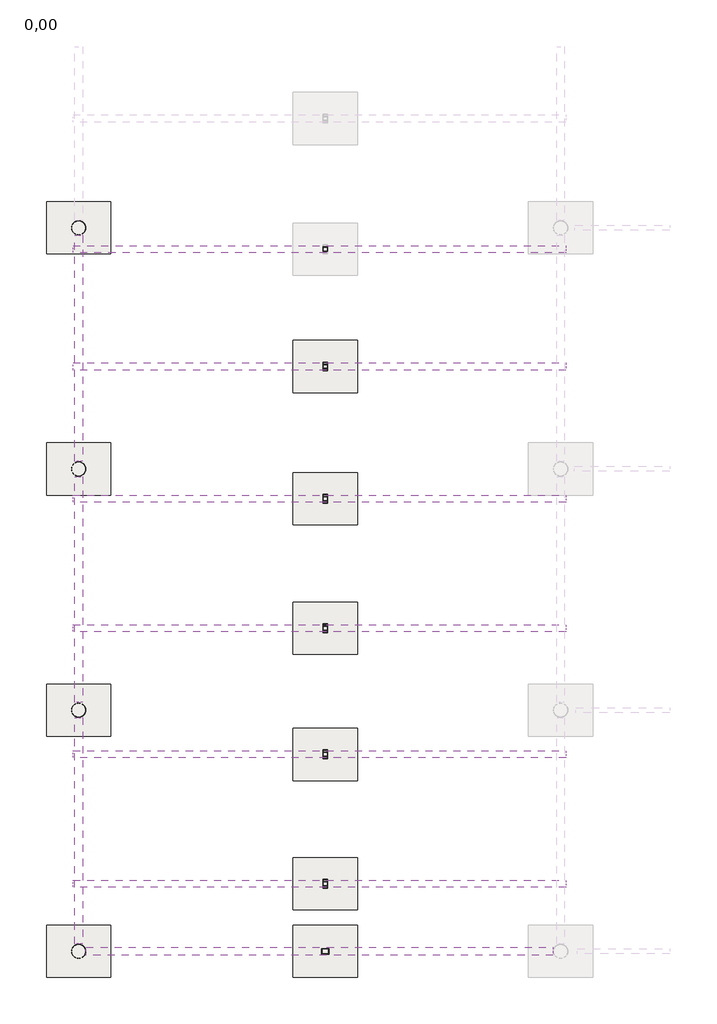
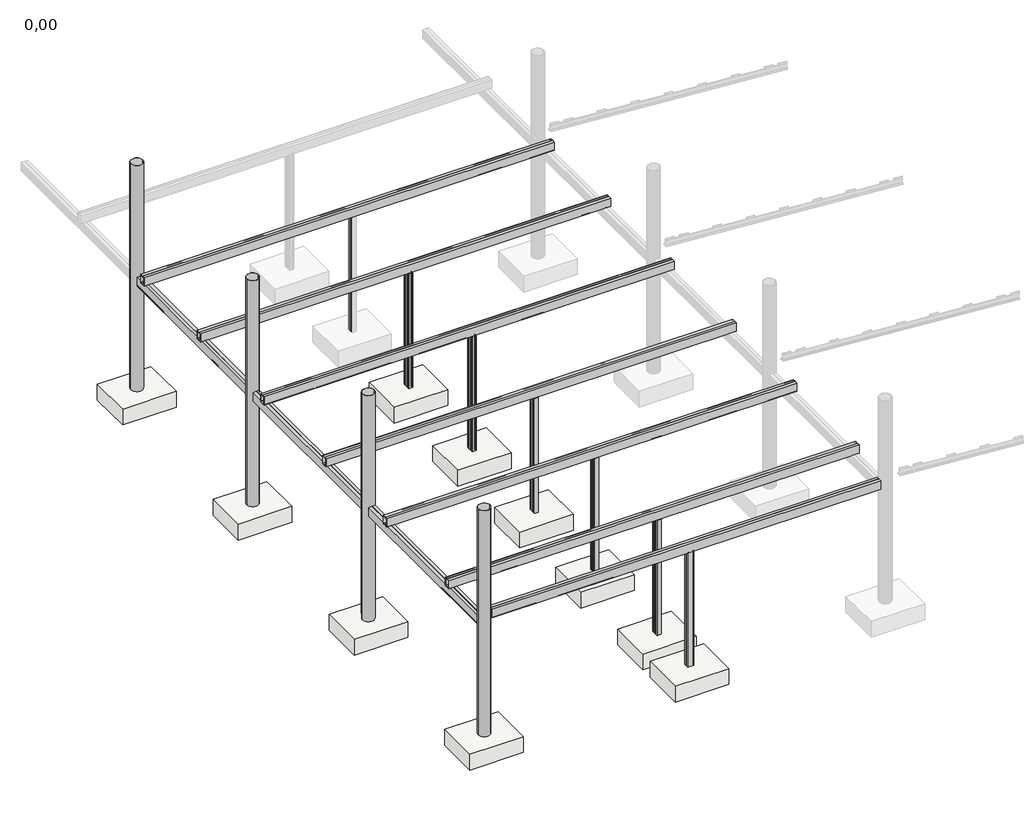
# One storey, part 1 of 2: 21 columns, 10 beams, 10 slabs.
"""IFC4 building model written with IfcOpenShell, lengths in millimetres."""

import ifcopenshell
import ifcopenshell.guid

model = None  # the IFC model being written
_history = None  # IfcOwnerHistory: only IFC2X3 demands one
_inside = {}  # id of a spatial element -> (the spatial element, [elements in it])
_under = {}  # id of a project, library or spatial element -> (it, [spatial elements below it])
_declared = {}  # id of a project -> (the project, [libraries it declares])
_typed = {}  # id of a type object -> (the type object, [elements of that type])
_made_of = {}  # id of a material, layer set ... -> (it, [elements and type objects made of it])


def new_model(schema):
    """Start an empty IFC model of exactly this schema.

    Asked for "IFC4X3", IfcOpenShell would pick the latest addendum, in which some entities
    have other attributes; the version numbers below select the first issue.
    IFC2X3 requires an IfcOwnerHistory on every rooted entity: one is made here for all.
    """
    global model, _history
    if schema == "IFC4X3":
        model = ifcopenshell.file(schema_version=(4, 3, 0, 0))
    else:
        model = ifcopenshell.file(schema=schema)
    _inside.clear()
    _under.clear()
    _declared.clear()
    _typed.clear()
    _made_of.clear()
    _history = None
    if model.schema == "IFC2X3":
        org = make("IfcOrganization", Name="unknown")
        user = make(
            "IfcPersonAndOrganization",
            ThePerson=make("IfcPerson", FamilyName="unknown"),
            TheOrganization=org,
        )
        app = make(
            "IfcApplication",
            ApplicationDeveloper=org,
            Version="unknown",
            ApplicationFullName="unknown",
            ApplicationIdentifier="unknown",
        )
        _history = make(
            "IfcOwnerHistory",
            OwningUser=user,
            OwningApplication=app,
            ChangeAction="ADDED",
            CreationDate=0,
        )
    return model


def make(cls, **values):
    """One entity of the class cls with the attributes given. An attribute that is None is left unset."""
    return model.create_entity(
        cls, **{name: value for name, value in values.items() if value is not None}
    )


def rooted(cls, **values):
    """An entity with a GlobalId (a new one), such as an element, a storey or a relation."""
    return make(cls, GlobalId=ifcopenshell.guid.new(), OwnerHistory=_history, **values)


def si_unit(unit_type, name, prefix=None):
    """IfcSIUnit, for example si_unit("LENGTHUNIT", "METRE", prefix="MILLI")."""
    return make("IfcSIUnit", UnitType=unit_type, Prefix=prefix, Name=name)


def assignment(units):
    """IfcUnitAssignment: the units of a project."""
    return None if units is None else make("IfcUnitAssignment", Units=units)


def point(xyz):
    """IfcCartesianPoint."""
    return None if xyz is None else make("IfcCartesianPoint", Coordinates=xyz)


def direction(xyz):
    """IfcDirection."""
    return None if xyz is None else make("IfcDirection", DirectionRatios=xyz)


def frame(location, z_axis=None, x_axis=None):
    """IfcAxis2Placement3D, a coordinate frame: its origin and axes. An axis left out is left unset."""
    return make(
        "IfcAxis2Placement3D",
        Location=point(location),
        Axis=direction(z_axis),
        RefDirection=direction(x_axis),
    )


def frame_2d(location, x_axis=None):
    """IfcAxis2Placement2D, a coordinate frame in the plane: its origin and x axis."""
    return make(
        "IfcAxis2Placement2D", Location=point(location), RefDirection=direction(x_axis)
    )


def origin():
    """The frame at (0, 0, 0) with its axes left unset."""
    return frame((0.0, 0.0, 0.0))


def origin_with_axes():
    """The frame at (0, 0, 0) with the z axis (0, 0, 1) and the x axis (1, 0, 0) written out."""
    return frame((0.0, 0.0, 0.0), z_axis=(0.0, 0.0, 1.0), x_axis=(1.0, 0.0, 0.0))


def origin_2d():
    """The frame at (0, 0) in the plane with its x axis left unset."""
    return frame_2d((0.0, 0.0))


def place(relative_to, where):
    """IfcLocalPlacement: puts the frame where relative to a parent placement (None: the world)."""
    return make(
        "IfcLocalPlacement", PlacementRelTo=relative_to, RelativePlacement=where
    )


def context(
    kind, dimensions, precision=None, world=None, true_north=None, identifier=None
):
    """IfcGeometricRepresentationContext, for example the 3D "Model" context."""
    return make(
        "IfcGeometricRepresentationContext",
        ContextIdentifier=identifier,
        ContextType=kind,
        CoordinateSpaceDimension=dimensions,
        Precision=precision,
        WorldCoordinateSystem=world,
        TrueNorth=true_north,
    )


def project(units=None, contexts=None):
    """IfcProject with its units and contexts."""
    return rooted(
        "IfcProject",
        Name="project",
        RepresentationContexts=contexts,
        UnitsInContext=assignment(units),
    )


def spatial(cls, under=None, at=None, **own):
    """A site, building, storey or space (cls), placed at a placement, below another one or the project."""
    s = rooted(cls, ObjectPlacement=at, **own)
    if under is not None:
        _under.setdefault(under.id(), (under, []))[1].append(s)
    return s


def polyline(points):
    """IfcPolyline through the points."""
    return make("IfcPolyline", Points=[point(p) for p in points])


def circle_curve(where, radius):
    """IfcCircle in the frame where."""
    return make("IfcCircle", Position=where, Radius=radius)


def trimmed(basis, trim1, trim2, sense, master):
    """IfcTrimmedCurve: the piece of a basis curve between two trims."""
    return make(
        "IfcTrimmedCurve",
        BasisCurve=basis,
        Trim1=trim1,
        Trim2=trim2,
        SenseAgreement=sense,
        MasterRepresentation=master,
    )


def segment(curve, same_sense, transition):
    """IfcCompositeCurveSegment."""
    return make(
        "IfcCompositeCurveSegment",
        Transition=transition,
        SameSense=same_sense,
        ParentCurve=curve,
    )


def composite_curve(segments, self_intersect=None):
    """IfcCompositeCurve: segments joined end to end."""
    return make("IfcCompositeCurve", Segments=segments, SelfIntersect=self_intersect)


def outline(outer, holes=None, kind="AREA"):
    """IfcArbitraryClosedProfileDef: a profile drawn as a closed curve; with holes, ...WithVoids."""
    if holes is None:
        return make("IfcArbitraryClosedProfileDef", ProfileType=kind, OuterCurve=outer)
    return make(
        "IfcArbitraryProfileDefWithVoids",
        ProfileType=kind,
        OuterCurve=outer,
        InnerCurves=holes,
    )


def extrude(swept, where, along, depth):
    """IfcExtrudedAreaSolid: the profile swept, set in the frame where, extruded along a direction by depth."""
    return make(
        "IfcExtrudedAreaSolid",
        SweptArea=swept,
        Position=where,
        ExtrudedDirection=direction(along),
        Depth=depth,
    )


def shape(context_of_items, identifier, shape_type, items):
    """IfcShapeRepresentation: the items that make up one representation, for example the "Body"."""
    return make(
        "IfcShapeRepresentation",
        ContextOfItems=context_of_items,
        RepresentationIdentifier=identifier,
        RepresentationType=shape_type,
        Items=items,
    )


def source(mapping_origin, context_of_items, identifier, shape_type, items):
    """IfcRepresentationMap: a shape defined once, which mapped items show again and again."""
    return make(
        "IfcRepresentationMap",
        MappingOrigin=mapping_origin,
        MappedRepresentation=shape(context_of_items, identifier, shape_type, items),
    )


def transform(
    local_origin,
    x_axis=None,
    y_axis=None,
    z_axis=None,
    scale=None,
    scale2=None,
    scale3=None,
    uniform=True,
):
    """IfcCartesianTransformationOperator3D, or its non-uniform kind. x_axis, y_axis, z_axis: its Axis1, 2, 3."""
    if uniform:
        return make(
            "IfcCartesianTransformationOperator3D",
            Axis1=direction(x_axis),
            Axis2=direction(y_axis),
            LocalOrigin=point(local_origin),
            Scale=scale,
            Axis3=direction(z_axis),
        )
    return make(
        "IfcCartesianTransformationOperator3DnonUniform",
        Axis1=direction(x_axis),
        Axis2=direction(y_axis),
        LocalOrigin=point(local_origin),
        Scale=scale,
        Axis3=direction(z_axis),
        Scale2=scale2,
        Scale3=scale3,
    )


def mapped(mapping_source, mapping_target):
    """IfcMappedItem: shows the shape of a source again, moved by a transform."""
    return make(
        "IfcMappedItem", MappingSource=mapping_source, MappingTarget=mapping_target
    )


def made_of(thing, what):
    """Note that an element or type object is made of a material, layer set ...; save() writes the relation."""
    if what is not None:
        _made_of.setdefault(what.id(), (what, []))[1].append(thing)
    return thing


def element(
    cls,
    number,
    at=None,
    inside=None,
    cuts=None,
    type_object=None,
    material=None,
    context=None,
    identifier="Body",
    shape_type=None,
    held_by="IfcProductDefinitionShape",
    body=None,
    shapes=None,
    **own,
):
    """One element of the class cls, such as IfcWall. Its Tag is "e" and its number.

    at: its placement. inside: the storey or other place that contains it. cuts: it is an
    opening in that element (IfcRelVoidsElement). A single representation is given by context,
    identifier, shape_type and body (its items); several are given by shapes. held_by: the class
    of the entity that holds the representations. save() writes the other relations.
    """
    e = rooted(cls, Tag="e%d" % number, ObjectPlacement=at, **own)
    if body is not None:
        shapes = [shape(context, identifier, shape_type, body)]
    if shapes is not None:
        e.Representation = make(held_by, Representations=shapes)
    if inside is not None:
        _inside.setdefault(inside.id(), (inside, []))[1].append(e)
    if cuts is not None:
        rooted(
            "IfcRelVoidsElement", RelatingBuildingElement=cuts, RelatedOpeningElement=e
        )
    if type_object is not None:
        _typed.setdefault(type_object.id(), (type_object, []))[1].append(e)
    return made_of(e, material)


def aggregate(whole, parts):
    """IfcRelAggregates: a whole, such as a stair, and the parts it consists of."""
    return rooted("IfcRelAggregates", RelatingObject=whole, RelatedObjects=parts)


def save(model, path):
    """Write the relations noted so far, then the file.

    IfcRelAggregates (storeys below a building ...), IfcRelContainedInSpatialStructure (elements
    in a storey), IfcRelDefinesByType, IfcRelAssociatesMaterial and IfcRelDeclares: one each for
    every whole, place, type object, material and project.
    """
    for whole, parts in _under.values():
        aggregate(whole, parts)
    for where, things in _inside.values():
        rooted(
            "IfcRelContainedInSpatialStructure",
            RelatedElements=things,
            RelatingStructure=where,
        )
    for kind, things in _typed.values():
        rooted("IfcRelDefinesByType", RelatedObjects=things, RelatingType=kind)
    for what, things in _made_of.values():
        rooted("IfcRelAssociatesMaterial", RelatedObjects=things, RelatingMaterial=what)
    for by, libraries in _declared.values():
        rooted("IfcRelDeclares", RelatingContext=by, RelatedDefinitions=libraries)
    model.write(path)


def beam_2c_260_021a14dd(model_context):
    return source(origin(), model_context, "Body", "SweptSolid", [
        extrude(outline(composite_curve([segment(polyline([(0.0, -116.0), (75.5, -116.0)]), True, "CONTINUOUS"), segment(trimmed(circle_curve(frame_2d((75.5, -111.5)), 4.5), [point((75.5, -116.0))], [point((80.0, -111.5))], True, "CARTESIAN"), True, "CONTINUOUS"), segment(polyline([(80.0, -111.5), (80.0, 113.0)]), True, "CONTINUOUS"), segment(trimmed(circle_curve(frame_2d((75.5, 113.0)), 4.5), [point((80.0, 113.0))], [point((75.5, 117.5))], True, "CARTESIAN"), True, "CONTINUOUS"), segment(polyline([(75.5, 117.5), (0.0, 117.5), (0.0, 130.0), (90.0, 130.0), (90.0, -130.0), (0.0, -130.0), (0.0, -116.0)]), True, "CONTINUOUS")], self_intersect=False)), frame((-6136.1, 0.0, 0.0), z_axis=(1.0, 0.0, 0.0), x_axis=(0.0, 1.0, 0.0)), (0.0, 0.0, 1.0), 12272.2),
        extrude(outline(composite_curve([segment(polyline([(0.0, -116.0), (0.0, -130.0), (-90.0, -130.0), (-90.0, 130.0), (0.0, 130.0), (0.0, 117.5), (-75.5, 117.5)]), True, "CONTINUOUS"), segment(trimmed(circle_curve(frame_2d((-75.5, 113.0)), 4.5), [point((-75.5, 117.5))], [point((-80.0, 113.0))], True, "CARTESIAN"), True, "CONTINUOUS"), segment(polyline([(-80.0, 113.0), (-80.0, -111.5)]), True, "CONTINUOUS"), segment(trimmed(circle_curve(frame_2d((-75.5, -111.5)), 4.5), [point((-80.0, -111.5))], [point((-75.5, -116.0))], True, "CARTESIAN"), True, "CONTINUOUS"), segment(polyline([(-75.5, -116.0), (0.0, -116.0)]), True, "CONTINUOUS")], self_intersect=False)), frame((-6136.1, 0.0, 0.0), z_axis=(1.0, 0.0, 0.0), x_axis=(0.0, 1.0, 0.0)), (0.0, 0.0, 1.0), 12272.2),
    ])


def beam_2c_270e_83d6d2ef(model_context):
    return source(origin(), model_context, "Body", "SweptSolid", [
        extrude(outline(composite_curve([segment(polyline([(-95.0, 135.0), (0.0, 135.0)]), True, "CONTINUOUS"), segment(trimmed(circle_curve(frame_2d((-10.5, 135.0)), 10.5), [point((0.0, 135.0))], [point((-10.5, 124.5))], False, "CARTESIAN"), True, "CONTINUOUS"), segment(polyline([(-10.5, 124.5), (-89.0, 112.0668214), (-89.0, -112.0668214), (-10.5, -124.5)]), True, "CONTINUOUS"), segment(trimmed(circle_curve(frame_2d((-10.5, -135.0)), 10.5), [point((-10.5, -124.5))], [point((0.0, -135.0))], False, "CARTESIAN"), True, "CONTINUOUS"), segment(polyline([(0.0, -135.0), (-95.0, -135.0), (-95.0, 135.0)]), True, "CONTINUOUS")], self_intersect=False)), frame((-2809.5, 0.0, 0.0), z_axis=(1.0, 0.0, 0.0), x_axis=(0.0, 1.0, 0.0)), (0.0, 0.0, 1.0), 5619.0),
        extrude(outline(composite_curve([segment(polyline([(95.0, 135.0), (95.0, -135.0), (0.0, -135.0)]), True, "CONTINUOUS"), segment(trimmed(circle_curve(frame_2d((10.5, -135.0)), 10.5), [point((0.0, -135.0))], [point((10.5, -124.5))], False, "CARTESIAN"), True, "CONTINUOUS"), segment(polyline([(10.5, -124.5), (89.0, -112.0668214), (89.0, 112.0668214), (10.5, 124.5)]), True, "CONTINUOUS"), segment(trimmed(circle_curve(frame_2d((10.5, 135.0)), 10.5), [point((10.5, 124.5))], [point((0.0, 135.0))], False, "CARTESIAN"), True, "CONTINUOUS"), segment(polyline([(0.0, 135.0), (95.0, 135.0)]), True, "CONTINUOUS")], self_intersect=False)), frame((-2809.5, 0.0, 0.0), z_axis=(1.0, 0.0, 0.0), x_axis=(0.0, 1.0, 0.0)), (0.0, 0.0, 1.0), 5619.0),
    ])


def beam_2c_270e_b8db1d55(model_context):
    return source(origin(), model_context, "Body", "SweptSolid", [
        extrude(outline(composite_curve([segment(polyline([(-95.0, 135.0), (0.0, 135.0)]), True, "CONTINUOUS"), segment(trimmed(circle_curve(frame_2d((-10.5, 135.0)), 10.5), [point((0.0, 135.0))], [point((-10.5, 124.5))], False, "CARTESIAN"), True, "CONTINUOUS"), segment(polyline([(-10.5, 124.5), (-89.0, 112.0668214), (-89.0, -112.0668214), (-10.5, -124.5)]), True, "CONTINUOUS"), segment(trimmed(circle_curve(frame_2d((-10.5, -135.0)), 10.5), [point((-10.5, -124.5))], [point((0.0, -135.0))], False, "CARTESIAN"), True, "CONTINUOUS"), segment(polyline([(0.0, -135.0), (-95.0, -135.0), (-95.0, 135.0)]), True, "CONTINUOUS")], self_intersect=False)), frame((-5809.5, 0.0, 0.0), z_axis=(1.0, 0.0, 0.0), x_axis=(0.0, 1.0, 0.0)), (0.0, 0.0, 1.0), 11619.0),
        extrude(outline(composite_curve([segment(polyline([(95.0, 135.0), (95.0, -135.0), (0.0, -135.0)]), True, "CONTINUOUS"), segment(trimmed(circle_curve(frame_2d((10.5, -135.0)), 10.5), [point((0.0, -135.0))], [point((10.5, -124.5))], False, "CARTESIAN"), True, "CONTINUOUS"), segment(polyline([(10.5, -124.5), (89.0, -112.0668214), (89.0, 112.0668214), (10.5, 124.5)]), True, "CONTINUOUS"), segment(trimmed(circle_curve(frame_2d((10.5, 135.0)), 10.5), [point((10.5, 124.5))], [point((0.0, 135.0))], False, "CARTESIAN"), True, "CONTINUOUS"), segment(polyline([(0.0, 135.0), (95.0, 135.0)]), True, "CONTINUOUS")], self_intersect=False)), frame((-5809.5, 0.0, 0.0), z_axis=(1.0, 0.0, 0.0), x_axis=(0.0, 1.0, 0.0)), (0.0, 0.0, 1.0), 11619.0),
    ])


def r355_6x10_30b81005(model_context):
    return source(origin(), model_context, "Body", "SweptSolid", [
        extrude(outline(composite_curve([segment(trimmed(circle_curve(origin_2d(), 177.8), [point((-177.8, 0.0))], [point((177.8, 0.0))], False, "CARTESIAN"), True, "CONTINUOUS"), segment(trimmed(circle_curve(origin_2d(), 177.8), [point((177.8, 0.0))], [point((-177.8, 0.0))], False, "CARTESIAN"), True, "CONTINUOUS")], self_intersect=False), holes=[composite_curve([segment(trimmed(circle_curve(origin_2d(), 167.8), [point((-167.8, 0.0))], [point((167.8, 0.0))], True, "CARTESIAN"), True, "CONTINUOUS"), segment(trimmed(circle_curve(origin_2d(), 167.8), [point((167.8, 0.0))], [point((-167.8, 0.0))], True, "CARTESIAN"), True, "CONTINUOUS")], self_intersect=False)]), origin_with_axes(), (0.0, 0.0, 1.0), 7150.0),
    ])


def slab_1600x1300x500_7dd4b297(model_context):
    return source(origin(), model_context, "Body", "SweptSolid", [
        extrude(outline(polyline([(650.0, 800.0), (650.0, -800.0), (-650.0, -800.0), (-650.0, 800.0), (650.0, 800.0)])), frame((0.0, 0.0, -500.0), z_axis=(0.0, 0.0, 1.0), x_axis=(1.0, 0.0, 0.0)), (0.0, 0.0, 1.0), 500.0),
    ])


model = new_model("IFC4")

# Units and contexts
model_context = context("Model", 3, world=origin())
ifc_project = project(units=[si_unit("LENGTHUNIT", "METRE", prefix="MILLI")], contexts=[model_context])

# Site, building, storey
site = spatial("IfcSite", under=ifc_project)
building = spatial("IfcBuilding", under=site)
storey = spatial("IfcBuildingStorey", under=building, Name="0,00", Elevation=0.0)

# Beams
placement = place(None, origin())
beam_2c_260_shape = beam_2c_260_021a14dd(model_context)
element("IfcBeam", 1, ObjectType="RPLN C - Ceowniki normalne_beamx2 : 2C 260", at=placement, inside=storey, context=model_context, shape_type="MappedRepresentation", body=[
    mapped(beam_2c_260_shape, transform((-2097.0111104, -35232.4816585, 3770.0), x_axis=(1.0, 0.0, 0.0), y_axis=(0.0, 1.0, 0.0), z_axis=(0.0, 0.0, 1.0))),
])
element("IfcBeam", 2, ObjectType="RPLN C - Ceowniki normalne_beamx2 : 2C 260", at=placement, inside=storey, context=model_context, shape_type="MappedRepresentation", body=[
    mapped(beam_2c_260_shape, transform((-2097.0111104, -32012.4816585, 3770.0), x_axis=(1.0, 0.0, 0.0), y_axis=(0.0, 1.0, 0.0), z_axis=(0.0, 0.0, 1.0))),
])
element("IfcBeam", 3, ObjectType="RPLN C - Ceowniki normalne_beamx2 : 2C 260", at=placement, inside=storey, context=model_context, shape_type="MappedRepresentation", body=[
    mapped(beam_2c_260_shape, transform((-2097.0111104, -28872.4816585, 3770.0), x_axis=(1.0, 0.0, 0.0), y_axis=(0.0, 1.0, 0.0), z_axis=(0.0, 0.0, 1.0))),
])
element("IfcBeam", 4, ObjectType="RPLN C - Ceowniki normalne_beamx2 : 2C 260", at=placement, inside=storey, context=model_context, shape_type="MappedRepresentation", body=[
    mapped(beam_2c_260_shape, transform((-2097.0111104, -25652.4816585, 3770.0), x_axis=(1.0, 0.0, 0.0), y_axis=(0.0, 1.0, 0.0), z_axis=(0.0, 0.0, 1.0))),
])
element("IfcBeam", 5, ObjectType="RPLN C - Ceowniki normalne_beamx2 : 2C 260", at=placement, inside=storey, context=model_context, shape_type="MappedRepresentation", body=[
    mapped(beam_2c_260_shape, transform((-2097.0111104, -22362.4816585, 3770.0), x_axis=(1.0, 0.0, 0.0), y_axis=(0.0, 1.0, 0.0), z_axis=(0.0, 0.0, 1.0))),
])
element("IfcBeam", 6, ObjectType="RPLN C - Ceowniki normalne_beamx2 : 2C 260", at=placement, inside=storey, context=model_context, shape_type="MappedRepresentation", body=[
    mapped(beam_2c_260_shape, transform((-2097.0111104, -19442.4816585, 3770.0), x_axis=(1.0, 0.0, 0.0), y_axis=(0.0, 1.0, 0.0), z_axis=(0.0, 0.0, 1.0))),
])
beam_2c_270e_shape = beam_2c_270e_83d6d2ef(model_context)
element("IfcBeam", 7, ObjectType="RPLN C - Ceowniki ekonomiczne_beamx2 : 2C 270E", at=placement, inside=storey, context=model_context, shape_type="MappedRepresentation", body=[
    mapped(beam_2c_270e_shape, transform((-8097.0111104, -33912.4816585, 3505.0), x_axis=(0.0, 1.0, 0.0), y_axis=(-1.0, 0.0, 0.0), z_axis=(0.0, 0.0, 1.0))),
])
element("IfcBeam", 8, ObjectType="RPLN C - Ceowniki ekonomiczne_beamx2 : 2C 270E", at=placement, inside=storey, context=model_context, shape_type="MappedRepresentation", body=[
    mapped(beam_2c_270e_shape, transform((-8097.0111104, -27912.4816585, 3505.0), x_axis=(0.0, 1.0, 0.0), y_axis=(-1.0, 0.0, 0.0), z_axis=(0.0, 0.0, 1.0))),
])
element("IfcBeam", 9, ObjectType="RPLN C - Ceowniki ekonomiczne_beamx2 : 2C 270E", at=placement, inside=storey, context=model_context, shape_type="MappedRepresentation", body=[
    mapped(beam_2c_270e_shape, transform((-8097.0111104, -21912.4816585, 3505.0), x_axis=(0.0, 1.0, 0.0), y_axis=(-1.0, 0.0, 0.0), z_axis=(0.0, 0.0, 1.0))),
])
beam_2c_270e_2_shape = beam_2c_270e_b8db1d55(model_context)
element("IfcBeam", 10, ObjectType="RPLN C - Ceowniki ekonomiczne_beamx2 : 2C 270E", at=placement, inside=storey, context=model_context, shape_type="MappedRepresentation", body=[
    mapped(beam_2c_270e_2_shape, transform((-2097.0111104, -36912.4816585, 3765.0), x_axis=(-1.0, 0.0, 0.0), y_axis=(0.0, -1.0, 0.0), z_axis=(0.0, 0.0, 1.0))),
])

# Columns
element("IfcColumn", 11, ObjectType="RPLN C - Ceowniki normalne_Column -x2 : C120", at=placement, inside=storey, context=model_context, shape_type="SweptSolid", body=[
    extrude(outline(composite_curve([segment(polyline([(-2017.0111104, -19387.4816585), (-1897.0111104, -19387.4816585), (-1897.0111104, -19442.4816585), (-1906.0111104, -19442.4816585), (-1906.0111104, -19401.9816585)]), True, "CONTINUOUS"), segment(trimmed(circle_curve(frame_2d((-1913.5111104, -19401.9816585)), 7.5), [point((-1906.0111104, -19401.9816585))], [point((-1913.5111104, -19394.4816585))], True, "CARTESIAN"), True, "CONTINUOUS"), segment(polyline([(-1913.5111104, -19394.4816585), (-2000.5111104, -19394.4816585)]), True, "CONTINUOUS"), segment(trimmed(circle_curve(frame_2d((-2000.5111104, -19401.9816585)), 7.5), [point((-2000.5111104, -19394.4816585))], [point((-2008.0111104, -19401.9816585))], True, "CARTESIAN"), True, "CONTINUOUS"), segment(polyline([(-2008.0111104, -19401.9816585), (-2008.0111104, -19442.4816585), (-2017.0111104, -19442.4816585), (-2017.0111104, -19387.4816585)]), True, "CONTINUOUS")], self_intersect=False)), origin_with_axes(), (0.0, 0.0, 1.0), 3640.0),
    extrude(outline(composite_curve([segment(polyline([(-2017.0111104, -19497.4816585), (-2017.0111104, -19442.4816585), (-2008.0111104, -19442.4816585), (-2008.0111104, -19482.4816585)]), True, "CONTINUOUS"), segment(trimmed(circle_curve(frame_2d((-2000.0111104, -19482.4816585)), 8.0), [point((-2008.0111104, -19482.4816585))], [point((-2000.0111104, -19490.4816585))], True, "CARTESIAN"), True, "CONTINUOUS"), segment(polyline([(-2000.0111104, -19490.4816585), (-1913.5111104, -19490.4816585)]), True, "CONTINUOUS"), segment(trimmed(circle_curve(frame_2d((-1913.5111104, -19482.9816585)), 7.5), [point((-1913.5111104, -19490.4816585))], [point((-1906.0111104, -19482.9816585))], True, "CARTESIAN"), True, "CONTINUOUS"), segment(polyline([(-1906.0111104, -19482.9816585), (-1906.0111104, -19442.4816585), (-1897.0111104, -19442.4816585), (-1897.0111104, -19497.4816585), (-2017.0111104, -19497.4816585)]), True, "CONTINUOUS")], self_intersect=False)), origin_with_axes(), (0.0, 0.0, 1.0), 3640.0),
])
element("IfcColumn", 12, ObjectType="RPLN C - Ceowniki normalne_Column -x2 : C120", at=placement, inside=storey, context=model_context, shape_type="SweptSolid", body=[
    extrude(outline(composite_curve([segment(polyline([(-2017.0111104, -22307.4816585), (-1897.0111104, -22307.4816585), (-1897.0111104, -22362.4816585), (-1906.0111104, -22362.4816585), (-1906.0111104, -22321.9816585)]), True, "CONTINUOUS"), segment(trimmed(circle_curve(frame_2d((-1913.5111104, -22321.9816585)), 7.5), [point((-1906.0111104, -22321.9816585))], [point((-1913.5111104, -22314.4816585))], True, "CARTESIAN"), True, "CONTINUOUS"), segment(polyline([(-1913.5111104, -22314.4816585), (-2000.5111104, -22314.4816585)]), True, "CONTINUOUS"), segment(trimmed(circle_curve(frame_2d((-2000.5111104, -22321.9816585)), 7.5), [point((-2000.5111104, -22314.4816585))], [point((-2008.0111104, -22321.9816585))], True, "CARTESIAN"), True, "CONTINUOUS"), segment(polyline([(-2008.0111104, -22321.9816585), (-2008.0111104, -22362.4816585), (-2017.0111104, -22362.4816585), (-2017.0111104, -22307.4816585)]), True, "CONTINUOUS")], self_intersect=False)), origin_with_axes(), (0.0, 0.0, 1.0), 3640.0),
    extrude(outline(composite_curve([segment(polyline([(-2017.0111104, -22417.4816585), (-2017.0111104, -22362.4816585), (-2008.0111104, -22362.4816585), (-2008.0111104, -22402.4816585)]), True, "CONTINUOUS"), segment(trimmed(circle_curve(frame_2d((-2000.0111104, -22402.4816585)), 8.0), [point((-2008.0111104, -22402.4816585))], [point((-2000.0111104, -22410.4816585))], True, "CARTESIAN"), True, "CONTINUOUS"), segment(polyline([(-2000.0111104, -22410.4816585), (-1913.5111104, -22410.4816585)]), True, "CONTINUOUS"), segment(trimmed(circle_curve(frame_2d((-1913.5111104, -22402.9816585)), 7.5), [point((-1913.5111104, -22410.4816585))], [point((-1906.0111104, -22402.9816585))], True, "CARTESIAN"), True, "CONTINUOUS"), segment(polyline([(-1906.0111104, -22402.9816585), (-1906.0111104, -22362.4816585), (-1897.0111104, -22362.4816585), (-1897.0111104, -22417.4816585), (-2017.0111104, -22417.4816585)]), True, "CONTINUOUS")], self_intersect=False)), origin_with_axes(), (0.0, 0.0, 1.0), 3640.0),
])
element("IfcColumn", 13, ObjectType="RPLN C - Ceowniki normalne_Column -x2 : C120", at=placement, inside=storey, context=model_context, shape_type="SweptSolid", body=[
    extrude(outline(composite_curve([segment(polyline([(-2017.0111104, -25597.4816585), (-1897.0111104, -25597.4816585), (-1897.0111104, -25652.4816585), (-1906.0111104, -25652.4816585), (-1906.0111104, -25611.9816585)]), True, "CONTINUOUS"), segment(trimmed(circle_curve(frame_2d((-1913.5111104, -25611.9816585)), 7.5), [point((-1906.0111104, -25611.9816585))], [point((-1913.5111104, -25604.4816585))], True, "CARTESIAN"), True, "CONTINUOUS"), segment(polyline([(-1913.5111104, -25604.4816585), (-2000.5111104, -25604.4816585)]), True, "CONTINUOUS"), segment(trimmed(circle_curve(frame_2d((-2000.5111104, -25611.9816585)), 7.5), [point((-2000.5111104, -25604.4816585))], [point((-2008.0111104, -25611.9816585))], True, "CARTESIAN"), True, "CONTINUOUS"), segment(polyline([(-2008.0111104, -25611.9816585), (-2008.0111104, -25652.4816585), (-2017.0111104, -25652.4816585), (-2017.0111104, -25597.4816585)]), True, "CONTINUOUS")], self_intersect=False)), origin_with_axes(), (0.0, 0.0, 1.0), 3640.0),
    extrude(outline(composite_curve([segment(polyline([(-2017.0111104, -25707.4816585), (-2017.0111104, -25652.4816585), (-2008.0111104, -25652.4816585), (-2008.0111104, -25692.4816585)]), True, "CONTINUOUS"), segment(trimmed(circle_curve(frame_2d((-2000.0111104, -25692.4816585)), 8.0), [point((-2008.0111104, -25692.4816585))], [point((-2000.0111104, -25700.4816585))], True, "CARTESIAN"), True, "CONTINUOUS"), segment(polyline([(-2000.0111104, -25700.4816585), (-1913.5111104, -25700.4816585)]), True, "CONTINUOUS"), segment(trimmed(circle_curve(frame_2d((-1913.5111104, -25692.9816585)), 7.5), [point((-1913.5111104, -25700.4816585))], [point((-1906.0111104, -25692.9816585))], True, "CARTESIAN"), True, "CONTINUOUS"), segment(polyline([(-1906.0111104, -25692.9816585), (-1906.0111104, -25652.4816585), (-1897.0111104, -25652.4816585), (-1897.0111104, -25707.4816585), (-2017.0111104, -25707.4816585)]), True, "CONTINUOUS")], self_intersect=False)), origin_with_axes(), (0.0, 0.0, 1.0), 3640.0),
])
element("IfcColumn", 14, ObjectType="RPLN C - Ceowniki normalne_Column -x2 : C120", at=placement, inside=storey, context=model_context, shape_type="SweptSolid", body=[
    extrude(outline(composite_curve([segment(polyline([(-2017.0111104, -28817.4816585), (-1897.0111104, -28817.4816585), (-1897.0111104, -28872.4816585), (-1906.0111104, -28872.4816585), (-1906.0111104, -28831.9816585)]), True, "CONTINUOUS"), segment(trimmed(circle_curve(frame_2d((-1913.5111104, -28831.9816585)), 7.5), [point((-1906.0111104, -28831.9816585))], [point((-1913.5111104, -28824.4816585))], True, "CARTESIAN"), True, "CONTINUOUS"), segment(polyline([(-1913.5111104, -28824.4816585), (-2000.5111104, -28824.4816585)]), True, "CONTINUOUS"), segment(trimmed(circle_curve(frame_2d((-2000.5111104, -28831.9816585)), 7.5), [point((-2000.5111104, -28824.4816585))], [point((-2008.0111104, -28831.9816585))], True, "CARTESIAN"), True, "CONTINUOUS"), segment(polyline([(-2008.0111104, -28831.9816585), (-2008.0111104, -28872.4816585), (-2017.0111104, -28872.4816585), (-2017.0111104, -28817.4816585)]), True, "CONTINUOUS")], self_intersect=False)), origin_with_axes(), (0.0, 0.0, 1.0), 3640.0),
    extrude(outline(composite_curve([segment(polyline([(-2017.0111104, -28927.4816585), (-2017.0111104, -28872.4816585), (-2008.0111104, -28872.4816585), (-2008.0111104, -28912.4816585)]), True, "CONTINUOUS"), segment(trimmed(circle_curve(frame_2d((-2000.0111104, -28912.4816585)), 8.0), [point((-2008.0111104, -28912.4816585))], [point((-2000.0111104, -28920.4816585))], True, "CARTESIAN"), True, "CONTINUOUS"), segment(polyline([(-2000.0111104, -28920.4816585), (-1913.5111104, -28920.4816585)]), True, "CONTINUOUS"), segment(trimmed(circle_curve(frame_2d((-1913.5111104, -28912.9816585)), 7.5), [point((-1913.5111104, -28920.4816585))], [point((-1906.0111104, -28912.9816585))], True, "CARTESIAN"), True, "CONTINUOUS"), segment(polyline([(-1906.0111104, -28912.9816585), (-1906.0111104, -28872.4816585), (-1897.0111104, -28872.4816585), (-1897.0111104, -28927.4816585), (-2017.0111104, -28927.4816585)]), True, "CONTINUOUS")], self_intersect=False)), origin_with_axes(), (0.0, 0.0, 1.0), 3640.0),
])
element("IfcColumn", 15, ObjectType="RPLN C - Ceowniki normalne_Column -x2 : C120", at=placement, inside=storey, context=model_context, shape_type="SweptSolid", body=[
    extrude(outline(composite_curve([segment(polyline([(-2017.0111104, -31957.4816585), (-1897.0111104, -31957.4816585), (-1897.0111104, -32012.4816585), (-1906.0111104, -32012.4816585), (-1906.0111104, -31971.9816585)]), True, "CONTINUOUS"), segment(trimmed(circle_curve(frame_2d((-1913.5111104, -31971.9816585)), 7.5), [point((-1906.0111104, -31971.9816585))], [point((-1913.5111104, -31964.4816585))], True, "CARTESIAN"), True, "CONTINUOUS"), segment(polyline([(-1913.5111104, -31964.4816585), (-2000.5111104, -31964.4816585)]), True, "CONTINUOUS"), segment(trimmed(circle_curve(frame_2d((-2000.5111104, -31971.9816585)), 7.5), [point((-2000.5111104, -31964.4816585))], [point((-2008.0111104, -31971.9816585))], True, "CARTESIAN"), True, "CONTINUOUS"), segment(polyline([(-2008.0111104, -31971.9816585), (-2008.0111104, -32012.4816585), (-2017.0111104, -32012.4816585), (-2017.0111104, -31957.4816585)]), True, "CONTINUOUS")], self_intersect=False)), origin_with_axes(), (0.0, 0.0, 1.0), 3640.0),
    extrude(outline(composite_curve([segment(polyline([(-2017.0111104, -32067.4816585), (-2017.0111104, -32012.4816585), (-2008.0111104, -32012.4816585), (-2008.0111104, -32052.4816585)]), True, "CONTINUOUS"), segment(trimmed(circle_curve(frame_2d((-2000.0111104, -32052.4816585)), 8.0), [point((-2008.0111104, -32052.4816585))], [point((-2000.0111104, -32060.4816585))], True, "CARTESIAN"), True, "CONTINUOUS"), segment(polyline([(-2000.0111104, -32060.4816585), (-1913.5111104, -32060.4816585)]), True, "CONTINUOUS"), segment(trimmed(circle_curve(frame_2d((-1913.5111104, -32052.9816585)), 7.5), [point((-1913.5111104, -32060.4816585))], [point((-1906.0111104, -32052.9816585))], True, "CARTESIAN"), True, "CONTINUOUS"), segment(polyline([(-1906.0111104, -32052.9816585), (-1906.0111104, -32012.4816585), (-1897.0111104, -32012.4816585), (-1897.0111104, -32067.4816585), (-2017.0111104, -32067.4816585)]), True, "CONTINUOUS")], self_intersect=False)), origin_with_axes(), (0.0, 0.0, 1.0), 3640.0),
])
element("IfcColumn", 16, ObjectType="RPLN C - Ceowniki normalne_Column -x2 : C120", at=placement, inside=storey, context=model_context, shape_type="SweptSolid", body=[
    extrude(outline(composite_curve([segment(polyline([(-2017.0111104, -35177.4816585), (-1897.0111104, -35177.4816585), (-1897.0111104, -35232.4816585), (-1906.0111104, -35232.4816585), (-1906.0111104, -35191.9816585)]), True, "CONTINUOUS"), segment(trimmed(circle_curve(frame_2d((-1913.5111104, -35191.9816585)), 7.5), [point((-1906.0111104, -35191.9816585))], [point((-1913.5111104, -35184.4816585))], True, "CARTESIAN"), True, "CONTINUOUS"), segment(polyline([(-1913.5111104, -35184.4816585), (-2000.5111104, -35184.4816585)]), True, "CONTINUOUS"), segment(trimmed(circle_curve(frame_2d((-2000.5111104, -35191.9816585)), 7.5), [point((-2000.5111104, -35184.4816585))], [point((-2008.0111104, -35191.9816585))], True, "CARTESIAN"), True, "CONTINUOUS"), segment(polyline([(-2008.0111104, -35191.9816585), (-2008.0111104, -35232.4816585), (-2017.0111104, -35232.4816585), (-2017.0111104, -35177.4816585)]), True, "CONTINUOUS")], self_intersect=False)), origin_with_axes(), (0.0, 0.0, 1.0), 3640.0),
    extrude(outline(composite_curve([segment(polyline([(-2017.0111104, -35287.4816585), (-2017.0111104, -35232.4816585), (-2008.0111104, -35232.4816585), (-2008.0111104, -35272.4816585)]), True, "CONTINUOUS"), segment(trimmed(circle_curve(frame_2d((-2000.0111104, -35272.4816585)), 8.0), [point((-2008.0111104, -35272.4816585))], [point((-2000.0111104, -35280.4816585))], True, "CARTESIAN"), True, "CONTINUOUS"), segment(polyline([(-2000.0111104, -35280.4816585), (-1913.5111104, -35280.4816585)]), True, "CONTINUOUS"), segment(trimmed(circle_curve(frame_2d((-1913.5111104, -35272.9816585)), 7.5), [point((-1913.5111104, -35280.4816585))], [point((-1906.0111104, -35272.9816585))], True, "CARTESIAN"), True, "CONTINUOUS"), segment(polyline([(-1906.0111104, -35272.9816585), (-1906.0111104, -35232.4816585), (-1897.0111104, -35232.4816585), (-1897.0111104, -35287.4816585), (-2017.0111104, -35287.4816585)]), True, "CONTINUOUS")], self_intersect=False)), origin_with_axes(), (0.0, 0.0, 1.0), 3640.0),
])
element("IfcColumn", 17, ObjectType="RPLN C - Ceowniki normalne_Column : C120", at=placement, inside=storey, context=model_context, shape_type="SweptSolid", body=[
    extrude(outline(composite_curve([segment(polyline([(-2017.0111104, -22252.4816585), (-1897.0111104, -22252.4816585), (-1897.0111104, -22307.4816585), (-1906.0111104, -22307.4816585), (-1906.0111104, -22268.4816585)]), True, "CONTINUOUS"), segment(trimmed(circle_curve(frame_2d((-1915.0111104, -22268.4816585)), 9.0), [point((-1906.0111104, -22268.4816585))], [point((-1915.0111104, -22259.4816585))], True, "CARTESIAN"), True, "CONTINUOUS"), segment(polyline([(-1915.0111104, -22259.4816585), (-1999.0111104, -22259.4816585)]), True, "CONTINUOUS"), segment(trimmed(circle_curve(frame_2d((-1999.0111104, -22268.4816585)), 9.0), [point((-1999.0111104, -22259.4816585))], [point((-2008.0111104, -22268.4816585))], True, "CARTESIAN"), True, "CONTINUOUS"), segment(polyline([(-2008.0111104, -22268.4816585), (-2008.0111104, -22307.4816585), (-2017.0111104, -22307.4816585), (-2017.0111104, -22252.4816585)]), True, "CONTINUOUS")], self_intersect=False)), origin_with_axes(), (0.0, 0.0, 1.0), 3640.0),
])
element("IfcColumn", 18, ObjectType="RPLN C - Ceowniki normalne_Column : C120", at=placement, inside=storey, context=model_context, shape_type="SweptSolid", body=[
    extrude(outline(composite_curve([segment(polyline([(-1897.0111104, -22472.4816585), (-2017.0111104, -22472.4816585), (-2017.0111104, -22417.4816585), (-2008.0111104, -22417.4816585), (-2008.0111104, -22456.4816585)]), True, "CONTINUOUS"), segment(trimmed(circle_curve(frame_2d((-1999.0111104, -22456.4816585)), 9.0), [point((-2008.0111104, -22456.4816585))], [point((-1999.0111104, -22465.4816585))], True, "CARTESIAN"), True, "CONTINUOUS"), segment(polyline([(-1999.0111104, -22465.4816585), (-1915.0111104, -22465.4816585)]), True, "CONTINUOUS"), segment(trimmed(circle_curve(frame_2d((-1915.0111104, -22456.4816585)), 9.0), [point((-1915.0111104, -22465.4816585))], [point((-1906.0111104, -22456.4816585))], True, "CARTESIAN"), True, "CONTINUOUS"), segment(polyline([(-1906.0111104, -22456.4816585), (-1906.0111104, -22417.4816585), (-1897.0111104, -22417.4816585), (-1897.0111104, -22472.4816585)]), True, "CONTINUOUS")], self_intersect=False)), origin_with_axes(), (0.0, 0.0, 1.0), 3640.0),
])
element("IfcColumn", 19, ObjectType="RPLN C - Ceowniki normalne_Column : C120", at=placement, inside=storey, context=model_context, shape_type="SweptSolid", body=[
    extrude(outline(composite_curve([segment(polyline([(-2017.0111104, -25542.4816585), (-1897.0111104, -25542.4816585), (-1897.0111104, -25597.4816585), (-1906.0111104, -25597.4816585), (-1906.0111104, -25558.4816585)]), True, "CONTINUOUS"), segment(trimmed(circle_curve(frame_2d((-1915.0111104, -25558.4816585)), 9.0), [point((-1906.0111104, -25558.4816585))], [point((-1915.0111104, -25549.4816585))], True, "CARTESIAN"), True, "CONTINUOUS"), segment(polyline([(-1915.0111104, -25549.4816585), (-1999.0111104, -25549.4816585)]), True, "CONTINUOUS"), segment(trimmed(circle_curve(frame_2d((-1999.0111104, -25558.4816585)), 9.0), [point((-1999.0111104, -25549.4816585))], [point((-2008.0111104, -25558.4816585))], True, "CARTESIAN"), True, "CONTINUOUS"), segment(polyline([(-2008.0111104, -25558.4816585), (-2008.0111104, -25597.4816585), (-2017.0111104, -25597.4816585), (-2017.0111104, -25542.4816585)]), True, "CONTINUOUS")], self_intersect=False)), origin_with_axes(), (0.0, 0.0, 1.0), 3640.0),
])
element("IfcColumn", 20, ObjectType="RPLN C - Ceowniki normalne_Column : C120", at=placement, inside=storey, context=model_context, shape_type="SweptSolid", body=[
    extrude(outline(composite_curve([segment(polyline([(-1897.0111104, -25762.4816585), (-2017.0111104, -25762.4816585), (-2017.0111104, -25707.4816585), (-2008.0111104, -25707.4816585), (-2008.0111104, -25746.4816585)]), True, "CONTINUOUS"), segment(trimmed(circle_curve(frame_2d((-1999.0111104, -25746.4816585)), 9.0), [point((-2008.0111104, -25746.4816585))], [point((-1999.0111104, -25755.4816585))], True, "CARTESIAN"), True, "CONTINUOUS"), segment(polyline([(-1999.0111104, -25755.4816585), (-1915.0111104, -25755.4816585)]), True, "CONTINUOUS"), segment(trimmed(circle_curve(frame_2d((-1915.0111104, -25746.4816585)), 9.0), [point((-1915.0111104, -25755.4816585))], [point((-1906.0111104, -25746.4816585))], True, "CARTESIAN"), True, "CONTINUOUS"), segment(polyline([(-1906.0111104, -25746.4816585), (-1906.0111104, -25707.4816585), (-1897.0111104, -25707.4816585), (-1897.0111104, -25762.4816585)]), True, "CONTINUOUS")], self_intersect=False)), origin_with_axes(), (0.0, 0.0, 1.0), 3640.0),
])
element("IfcColumn", 21, ObjectType="RPLN C - Ceowniki normalne_Column : C120", at=placement, inside=storey, context=model_context, shape_type="SweptSolid", body=[
    extrude(outline(composite_curve([segment(polyline([(-2017.0111104, -28762.4816585), (-1897.0111104, -28762.4816585), (-1897.0111104, -28817.4816585), (-1906.0111104, -28817.4816585), (-1906.0111104, -28778.4816585)]), True, "CONTINUOUS"), segment(trimmed(circle_curve(frame_2d((-1915.0111104, -28778.4816585)), 9.0), [point((-1906.0111104, -28778.4816585))], [point((-1915.0111104, -28769.4816585))], True, "CARTESIAN"), True, "CONTINUOUS"), segment(polyline([(-1915.0111104, -28769.4816585), (-1999.0111104, -28769.4816585)]), True, "CONTINUOUS"), segment(trimmed(circle_curve(frame_2d((-1999.0111104, -28778.4816585)), 9.0), [point((-1999.0111104, -28769.4816585))], [point((-2008.0111104, -28778.4816585))], True, "CARTESIAN"), True, "CONTINUOUS"), segment(polyline([(-2008.0111104, -28778.4816585), (-2008.0111104, -28817.4816585), (-2017.0111104, -28817.4816585), (-2017.0111104, -28762.4816585)]), True, "CONTINUOUS")], self_intersect=False)), origin_with_axes(), (0.0, 0.0, 1.0), 3640.0),
])
element("IfcColumn", 22, ObjectType="RPLN C - Ceowniki normalne_Column : C120", at=placement, inside=storey, context=model_context, shape_type="SweptSolid", body=[
    extrude(outline(composite_curve([segment(polyline([(-1897.0111104, -28982.4816585), (-2017.0111104, -28982.4816585), (-2017.0111104, -28927.4816585), (-2008.0111104, -28927.4816585), (-2008.0111104, -28966.4816585)]), True, "CONTINUOUS"), segment(trimmed(circle_curve(frame_2d((-1999.0111104, -28966.4816585)), 9.0), [point((-2008.0111104, -28966.4816585))], [point((-1999.0111104, -28975.4816585))], True, "CARTESIAN"), True, "CONTINUOUS"), segment(polyline([(-1999.0111104, -28975.4816585), (-1915.0111104, -28975.4816585)]), True, "CONTINUOUS"), segment(trimmed(circle_curve(frame_2d((-1915.0111104, -28966.4816585)), 9.0), [point((-1915.0111104, -28975.4816585))], [point((-1906.0111104, -28966.4816585))], True, "CARTESIAN"), True, "CONTINUOUS"), segment(polyline([(-1906.0111104, -28966.4816585), (-1906.0111104, -28927.4816585), (-1897.0111104, -28927.4816585), (-1897.0111104, -28982.4816585)]), True, "CONTINUOUS")], self_intersect=False)), origin_with_axes(), (0.0, 0.0, 1.0), 3640.0),
])
element("IfcColumn", 23, ObjectType="RPLN C - Ceowniki normalne_Column : C120", at=placement, inside=storey, context=model_context, shape_type="SweptSolid", body=[
    extrude(outline(composite_curve([segment(polyline([(-2017.0111104, -31902.4816585), (-1897.0111104, -31902.4816585), (-1897.0111104, -31957.4816585), (-1906.0111104, -31957.4816585), (-1906.0111104, -31918.4816585)]), True, "CONTINUOUS"), segment(trimmed(circle_curve(frame_2d((-1915.0111104, -31918.4816585)), 9.0), [point((-1906.0111104, -31918.4816585))], [point((-1915.0111104, -31909.4816585))], True, "CARTESIAN"), True, "CONTINUOUS"), segment(polyline([(-1915.0111104, -31909.4816585), (-1999.0111104, -31909.4816585)]), True, "CONTINUOUS"), segment(trimmed(circle_curve(frame_2d((-1999.0111104, -31918.4816585)), 9.0), [point((-1999.0111104, -31909.4816585))], [point((-2008.0111104, -31918.4816585))], True, "CARTESIAN"), True, "CONTINUOUS"), segment(polyline([(-2008.0111104, -31918.4816585), (-2008.0111104, -31957.4816585), (-2017.0111104, -31957.4816585), (-2017.0111104, -31902.4816585)]), True, "CONTINUOUS")], self_intersect=False)), origin_with_axes(), (0.0, 0.0, 1.0), 3640.0),
])
element("IfcColumn", 24, ObjectType="RPLN C - Ceowniki normalne_Column : C120", at=placement, inside=storey, context=model_context, shape_type="SweptSolid", body=[
    extrude(outline(composite_curve([segment(polyline([(-1897.0111104, -32122.4816585), (-2017.0111104, -32122.4816585), (-2017.0111104, -32067.4816585), (-2008.0111104, -32067.4816585), (-2008.0111104, -32106.4816585)]), True, "CONTINUOUS"), segment(trimmed(circle_curve(frame_2d((-1999.0111104, -32106.4816585)), 9.0), [point((-2008.0111104, -32106.4816585))], [point((-1999.0111104, -32115.4816585))], True, "CARTESIAN"), True, "CONTINUOUS"), segment(polyline([(-1999.0111104, -32115.4816585), (-1915.0111104, -32115.4816585)]), True, "CONTINUOUS"), segment(trimmed(circle_curve(frame_2d((-1915.0111104, -32106.4816585)), 9.0), [point((-1915.0111104, -32115.4816585))], [point((-1906.0111104, -32106.4816585))], True, "CARTESIAN"), True, "CONTINUOUS"), segment(polyline([(-1906.0111104, -32106.4816585), (-1906.0111104, -32067.4816585), (-1897.0111104, -32067.4816585), (-1897.0111104, -32122.4816585)]), True, "CONTINUOUS")], self_intersect=False)), origin_with_axes(), (0.0, 0.0, 1.0), 3640.0),
])
element("IfcColumn", 25, ObjectType="RPLN C - Ceowniki normalne_Column : C120", at=placement, inside=storey, context=model_context, shape_type="SweptSolid", body=[
    extrude(outline(composite_curve([segment(polyline([(-2017.0111104, -35122.4816585), (-1897.0111104, -35122.4816585), (-1897.0111104, -35177.4816585), (-1906.0111104, -35177.4816585), (-1906.0111104, -35138.4816585)]), True, "CONTINUOUS"), segment(trimmed(circle_curve(frame_2d((-1915.0111104, -35138.4816585)), 9.0), [point((-1906.0111104, -35138.4816585))], [point((-1915.0111104, -35129.4816585))], True, "CARTESIAN"), True, "CONTINUOUS"), segment(polyline([(-1915.0111104, -35129.4816585), (-1999.0111104, -35129.4816585)]), True, "CONTINUOUS"), segment(trimmed(circle_curve(frame_2d((-1999.0111104, -35138.4816585)), 9.0), [point((-1999.0111104, -35129.4816585))], [point((-2008.0111104, -35138.4816585))], True, "CARTESIAN"), True, "CONTINUOUS"), segment(polyline([(-2008.0111104, -35138.4816585), (-2008.0111104, -35177.4816585), (-2017.0111104, -35177.4816585), (-2017.0111104, -35122.4816585)]), True, "CONTINUOUS")], self_intersect=False)), origin_with_axes(), (0.0, 0.0, 1.0), 3640.0),
])
element("IfcColumn", 26, ObjectType="RPLN C - Ceowniki normalne_Column : C120", at=placement, inside=storey, context=model_context, shape_type="SweptSolid", body=[
    extrude(outline(composite_curve([segment(polyline([(-1897.0111104, -35342.4816585), (-2017.0111104, -35342.4816585), (-2017.0111104, -35287.4816585), (-2008.0111104, -35287.4816585), (-2008.0111104, -35326.4816585)]), True, "CONTINUOUS"), segment(trimmed(circle_curve(frame_2d((-1999.0111104, -35326.4816585)), 9.0), [point((-2008.0111104, -35326.4816585))], [point((-1999.0111104, -35335.4816585))], True, "CARTESIAN"), True, "CONTINUOUS"), segment(polyline([(-1999.0111104, -35335.4816585), (-1915.0111104, -35335.4816585)]), True, "CONTINUOUS"), segment(trimmed(circle_curve(frame_2d((-1915.0111104, -35326.4816585)), 9.0), [point((-1915.0111104, -35335.4816585))], [point((-1906.0111104, -35326.4816585))], True, "CARTESIAN"), True, "CONTINUOUS"), segment(polyline([(-1906.0111104, -35326.4816585), (-1906.0111104, -35287.4816585), (-1897.0111104, -35287.4816585), (-1897.0111104, -35342.4816585)]), True, "CONTINUOUS")], self_intersect=False)), origin_with_axes(), (0.0, 0.0, 1.0), 3640.0),
])
element("IfcColumn", 27, ObjectType="RPLN C - Ceowniki normalne_Column -x2 : C180", at=placement, inside=storey, context=model_context, shape_type="SweptSolid", body=[
    extrude(outline(composite_curve([segment(polyline([(-1867.0111104, -36982.4816585), (-2047.0111104, -36982.4816585), (-2047.0111104, -36912.4816585), (-2036.0111104, -36912.4816585), (-2036.0111104, -36967.9816585)]), True, "CONTINUOUS"), segment(trimmed(circle_curve(frame_2d((-2029.5111104, -36967.9816585)), 6.5), [point((-2036.0111104, -36967.9816585))], [point((-2029.5111104, -36974.4816585))], True, "CARTESIAN"), True, "CONTINUOUS"), segment(polyline([(-2029.5111104, -36974.4816585), (-1884.5111104, -36974.4816585)]), True, "CONTINUOUS"), segment(trimmed(circle_curve(frame_2d((-1884.5111104, -36967.9816585)), 6.5), [point((-1884.5111104, -36974.4816585))], [point((-1878.0111104, -36967.9816585))], True, "CARTESIAN"), True, "CONTINUOUS"), segment(polyline([(-1878.0111104, -36967.9816585), (-1878.0111104, -36912.4816585), (-1867.0111104, -36912.4816585), (-1867.0111104, -36982.4816585)]), True, "CONTINUOUS")], self_intersect=False)), origin_with_axes(), (0.0, 0.0, 1.0), 3630.0),
    extrude(outline(composite_curve([segment(polyline([(-1867.0111104, -36842.4816585), (-1867.0111104, -36912.4816585), (-1878.0111104, -36912.4816585), (-1878.0111104, -36856.4816585)]), True, "CONTINUOUS"), segment(trimmed(circle_curve(frame_2d((-1884.0111104, -36856.4816585)), 6.0), [point((-1878.0111104, -36856.4816585))], [point((-1884.0111104, -36850.4816585))], True, "CARTESIAN"), True, "CONTINUOUS"), segment(polyline([(-1884.0111104, -36850.4816585), (-2029.5111104, -36850.4816585)]), True, "CONTINUOUS"), segment(trimmed(circle_curve(frame_2d((-2029.5111104, -36856.9816585)), 6.5), [point((-2029.5111104, -36850.4816585))], [point((-2036.0111104, -36856.9816585))], True, "CARTESIAN"), True, "CONTINUOUS"), segment(polyline([(-2036.0111104, -36856.9816585), (-2036.0111104, -36912.4816585), (-2047.0111104, -36912.4816585), (-2047.0111104, -36842.4816585), (-1867.0111104, -36842.4816585)]), True, "CONTINUOUS")], self_intersect=False)), origin_with_axes(), (0.0, 0.0, 1.0), 3630.0),
])
r355_6x10_shape = r355_6x10_30b81005(model_context)
element("IfcColumn", 28, ObjectType="RPLN RO - Rury okragle_Column : R355.6x10", at=placement, inside=storey, context=model_context, shape_type="MappedRepresentation", body=[
    mapped(r355_6x10_shape, transform((-8097.0111104, -36912.4816585, 0.0), x_axis=(-1.0, 0.0, 0.0), y_axis=(0.0, -1.0, 0.0), z_axis=(0.0, 0.0, 1.0))),
])
element("IfcColumn", 29, ObjectType="RPLN RO - Rury okragle_Column : R355.6x10", at=placement, inside=storey, context=model_context, shape_type="MappedRepresentation", body=[
    mapped(r355_6x10_shape, transform((-8097.0111104, -30912.4816585, 0.0), x_axis=(-1.0, 0.0, 0.0), y_axis=(0.0, -1.0, 0.0), z_axis=(0.0, 0.0, 1.0))),
])
element("IfcColumn", 30, ObjectType="RPLN RO - Rury okragle_Column : R355.6x10", at=placement, inside=storey, context=model_context, shape_type="MappedRepresentation", body=[
    mapped(r355_6x10_shape, transform((-8097.0111104, -24912.4816585, 0.0), x_axis=(-1.0, 0.0, 0.0), y_axis=(0.0, -1.0, 0.0), z_axis=(0.0, 0.0, 1.0))),
])
element("IfcColumn", 31, ObjectType="RPLN RO - Rury okragle_Column : R355.6x10", at=placement, inside=storey, context=model_context, shape_type="MappedRepresentation", body=[
    mapped(r355_6x10_shape, transform((-8097.0111104, -18912.4816585, 0.0), x_axis=(-1.0, 0.0, 0.0), y_axis=(0.0, -1.0, 0.0), z_axis=(0.0, 0.0, 1.0))),
])

# Slabs
slab_1600x1300x500_shape = slab_1600x1300x500_7dd4b297(model_context)
element("IfcSlab", 32, ObjectType="Prostokąt-Podstawy_M : 1600x1300x500", at=placement, inside=storey, context=model_context, shape_type="MappedRepresentation", body=[
    mapped(slab_1600x1300x500_shape, transform((-8097.0111104, -36912.4816585, 0.0), x_axis=(0.0, -1.0, 0.0), y_axis=(1.0, 0.0, 0.0), z_axis=(0.0, 0.0, 1.0))),
])
element("IfcSlab", 33, ObjectType="Prostokąt-Podstawy_M : 1600x1300x500", at=placement, inside=storey, context=model_context, shape_type="MappedRepresentation", body=[
    mapped(slab_1600x1300x500_shape, transform((-8097.0111104, -30912.4816585, 0.0), x_axis=(0.0, -1.0, 0.0), y_axis=(1.0, 0.0, 0.0), z_axis=(0.0, 0.0, 1.0))),
])
element("IfcSlab", 34, ObjectType="Prostokąt-Podstawy_M : 1600x1300x500", at=placement, inside=storey, context=model_context, shape_type="MappedRepresentation", body=[
    mapped(slab_1600x1300x500_shape, transform((-8097.0111104, -24912.4816585, 0.0), x_axis=(0.0, -1.0, 0.0), y_axis=(1.0, 0.0, 0.0), z_axis=(0.0, 0.0, 1.0))),
])
element("IfcSlab", 35, ObjectType="Prostokąt-Podstawy_M : 1600x1300x500", at=placement, inside=storey, context=model_context, shape_type="MappedRepresentation", body=[
    mapped(slab_1600x1300x500_shape, transform((-8097.0111104, -18912.4816585, 0.0), x_axis=(0.0, -1.0, 0.0), y_axis=(1.0, 0.0, 0.0), z_axis=(0.0, 0.0, 1.0))),
])
element("IfcSlab", 36, ObjectType="Prostokąt-Podstawy_M : 1600x1300x500", at=placement, inside=storey, context=model_context, shape_type="MappedRepresentation", body=[
    mapped(slab_1600x1300x500_shape, transform((-1957.0111104, -22362.4816585, 0.0), x_axis=(0.0, -1.0, 0.0), y_axis=(1.0, 0.0, 0.0), z_axis=(0.0, 0.0, 1.0))),
])
element("IfcSlab", 37, ObjectType="Prostokąt-Podstawy_M : 1600x1300x500", at=placement, inside=storey, context=model_context, shape_type="MappedRepresentation", body=[
    mapped(slab_1600x1300x500_shape, transform((-1957.0111104, -25652.4816585, 0.0), x_axis=(0.0, -1.0, 0.0), y_axis=(1.0, 0.0, 0.0), z_axis=(0.0, 0.0, 1.0))),
])
element("IfcSlab", 38, ObjectType="Prostokąt-Podstawy_M : 1600x1300x500", at=placement, inside=storey, context=model_context, shape_type="MappedRepresentation", body=[
    mapped(slab_1600x1300x500_shape, transform((-1957.0111104, -28872.4816585, 0.0), x_axis=(0.0, -1.0, 0.0), y_axis=(1.0, 0.0, 0.0), z_axis=(0.0, 0.0, 1.0))),
])
element("IfcSlab", 39, ObjectType="Prostokąt-Podstawy_M : 1600x1300x500", at=placement, inside=storey, context=model_context, shape_type="MappedRepresentation", body=[
    mapped(slab_1600x1300x500_shape, transform((-1957.0111104, -32012.4816585, 0.0), x_axis=(0.0, -1.0, 0.0), y_axis=(1.0, 0.0, 0.0), z_axis=(0.0, 0.0, 1.0))),
])
element("IfcSlab", 40, ObjectType="Prostokąt-Podstawy_M : 1600x1300x500", at=placement, inside=storey, context=model_context, shape_type="MappedRepresentation", body=[
    mapped(slab_1600x1300x500_shape, transform((-1957.0111104, -35232.4816585, 0.0), x_axis=(0.0, -1.0, 0.0), y_axis=(1.0, 0.0, 0.0), z_axis=(0.0, 0.0, 1.0))),
])
element("IfcSlab", 41, ObjectType="Prostokąt-Podstawy_M : 1600x1300x500", at=placement, inside=storey, context=model_context, shape_type="MappedRepresentation", body=[
    mapped(slab_1600x1300x500_shape, transform((-1957.0111104, -36912.4816585, 0.0), x_axis=(0.0, 1.0, 0.0), y_axis=(-1.0, 0.0, 0.0), z_axis=(0.0, 0.0, 1.0))),
])

save(model, "model.ifc")
